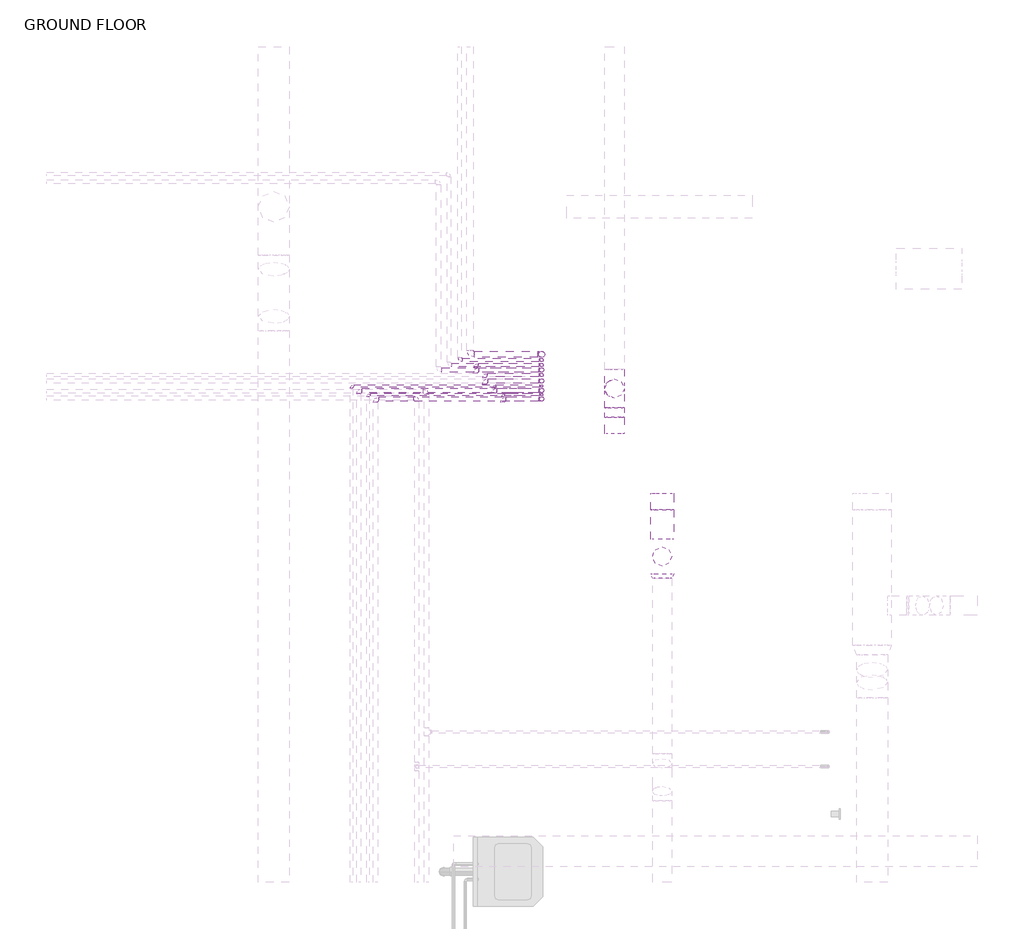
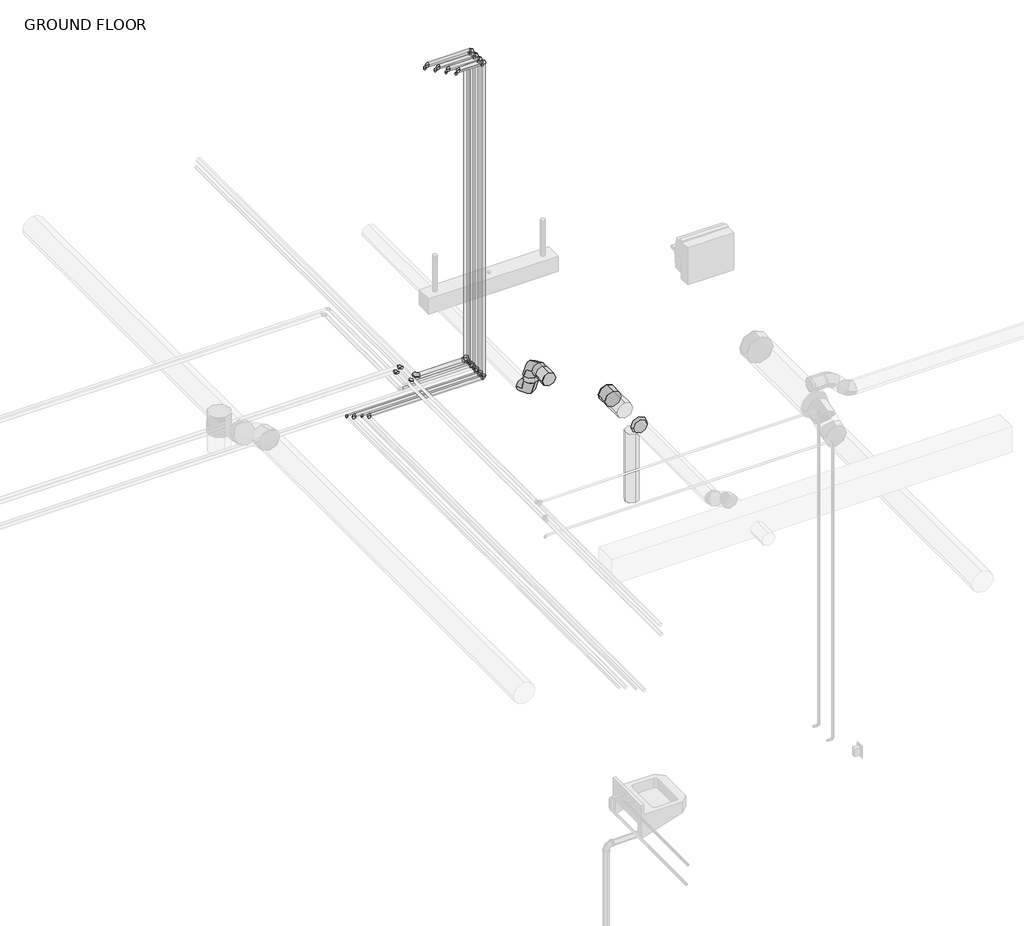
# One storey, part 14 of 22: 34 pipe fittings, 26 pipe segments, 5 duct fittings, 4 duct segments.
"""IFC4 building model written with IfcOpenShell, lengths in millimetres."""

from ifc_helpers import new_model, si_unit, point, frame, frame_2d, origin, place, context, project, spatial, circle_curve, trimmed, segment, composite_curve, outline, extrude, transform, mapped, element, save
from components import round_elbow_1_d_c80420c1, round_takeoff_standard_fb854549, round_takeoff_standard_0a2b6d05, round_transition_angle_45_degree_fe5c3047, elbow_generic_standard_c06ac706, elbow_generic_standard_738589b0, elbow_generic_standard_a088f956, elbow_generic_standard_371413ad

model = new_model("IFC4")

# Units and contexts
model_context = context("Model", 3, world=origin())
ifc_project = project(units=[si_unit("LENGTHUNIT", "METRE", prefix="MILLI")], contexts=[model_context])

# Site, building, storey
site = spatial("IfcSite", under=ifc_project)
building = spatial("IfcBuilding", under=site)
storey = spatial("IfcBuildingStorey", under=building, Name="GROUND FLOOR", Elevation=30480.0)

# Duct fittings
placement = place(None, origin())
round_elbow_1_d_shape = round_elbow_1_d_c80420c1(model_context)
element("IfcDuctFitting", 1, ObjectType="Round Elbow : 1 D", at=placement, inside=storey, context=model_context, shape_type="MappedRepresentation", body=[
    mapped(round_elbow_1_d_shape, transform((-8950.9579607, 7478.1195005, 33629.6), x_axis=(0.0, 0.0, 1.0), y_axis=(0.0, -1.0, 0.0), z_axis=(1.0, 0.0, 0.0))),
])
element("IfcDuctFitting", 2, ObjectType="Round Elbow : 1 D", at=placement, inside=storey, context=model_context, shape_type="MappedRepresentation", body=[
    mapped(round_elbow_1_d_shape, transform((-8950.9579607, 7478.1195005, 33324.8), x_axis=(0.0, 0.0, -1.0), y_axis=(0.0, 1.0, 0.0), z_axis=(1.0, 0.0, 0.0))),
])
round_takeoff_standard_shape = round_takeoff_standard_fb854549(model_context)
element("IfcDuctFitting", 3, ObjectType="Round Takeoff : Standard", at=placement, inside=storey, context=model_context, shape_type="MappedRepresentation", body=[
    mapped(round_takeoff_standard_shape, transform((-8950.9579607, 7187.8293332, 33629.6), x_axis=(0.0, 1.0, 0.0), y_axis=(1.0, 0.0, 0.0), z_axis=(0.0, 0.0, -1.0))),
])
round_takeoff_standard_2_shape = round_takeoff_standard_0a2b6d05(model_context)
element("IfcDuctFitting", 4, ObjectType="Round Takeoff : Standard", at=placement, inside=storey, context=model_context, shape_type="MappedRepresentation", body=[
    mapped(round_takeoff_standard_2_shape, transform((-8636.6329607, 6781.4293332, 33629.6), x_axis=(0.0, -1.0, 0.0), y_axis=(-1.0, 0.0, 0.0), z_axis=(0.0, 0.0, -1.0))),
])
round_transition_angle_45_degree_shape = round_transition_angle_45_degree_fe5c3047(model_context)
element("IfcDuctFitting", 5, ObjectType="Round Transition - Angle : 45 Degree", at=placement, inside=storey, context=model_context, shape_type="MappedRepresentation", body=[
    mapped(round_transition_angle_45_degree_shape, transform((-8636.6329607, 6258.9195005, 33629.6), x_axis=(0.0, -1.0, 0.0), y_axis=(1.0, 0.0, 0.0), z_axis=(0.0, 0.0, 1.0))),
])

# Duct segments
element("IfcDuctSegment", 6, ObjectType="Taps / Short Radius", at=placement, inside=storey, context=model_context, shape_type="SweptSolid", body=[
    extrude(outline(composite_curve([segment(trimmed(circle_curve(frame_2d((-8636.6329607, 6373.2195005)), 63.5), [point((-8636.6329607, 6309.7195005))], [point((-8700.1329607, 6373.2195005))], False, "CARTESIAN"), True, "CONTINUOUS"), segment(trimmed(circle_curve(frame_2d((-8636.6329607, 6373.2195005)), 63.5), [point((-8700.1329607, 6373.2195005))], [point((-8636.6329607, 6436.7195005))], False, "CARTESIAN"), True, "CONTINUOUS"), segment(trimmed(circle_curve(frame_2d((-8636.6329607, 6373.2195005)), 63.5), [point((-8636.6329607, 6436.7195005))], [point((-8573.1329607, 6373.2195005))], False, "CARTESIAN"), True, "CONTINUOUS"), segment(trimmed(circle_curve(frame_2d((-8636.6329607, 6373.2195005)), 63.5), [point((-8573.1329607, 6373.2195005))], [point((-8636.6329607, 6309.7195005))], False, "CARTESIAN"), True, "CONTINUOUS")], self_intersect=False)), frame((0.0, 0.0, 32816.8), z_axis=(0.0, 0.0, 1.0), x_axis=(1.0, 0.0, 0.0)), (0.0, 0.0, 1.0), 685.8),
])
element("IfcDuctSegment", 7, ObjectType="Taps / Short Radius", at=placement, inside=storey, context=model_context, shape_type="SweptSolid", body=[
    extrude(outline(composite_curve([segment(trimmed(circle_curve(frame_2d((33629.6, -8636.6329607)), 76.2), [point((33629.6, -8712.8329607))], [point((33553.4, -8636.6329607))], False, "CARTESIAN"), True, "CONTINUOUS"), segment(trimmed(circle_curve(frame_2d((33629.6, -8636.6329607)), 76.2), [point((33553.4, -8636.6329607))], [point((33629.6, -8560.4329607))], False, "CARTESIAN"), True, "CONTINUOUS"), segment(trimmed(circle_curve(frame_2d((33629.6, -8636.6329607)), 76.2), [point((33629.6, -8560.4329607))], [point((33705.8, -8636.6329607))], False, "CARTESIAN"), True, "CONTINUOUS"), segment(trimmed(circle_curve(frame_2d((33629.6, -8636.6329607)), 76.2), [point((33705.8, -8636.6329607))], [point((33629.6, -8712.8329607))], False, "CARTESIAN"), True, "CONTINUOUS")], self_intersect=False)), frame((0.0, 6487.5195005, 0.0), z_axis=(0.0, 1.0, 0.0), x_axis=(0.0, 0.0, 1.0)), (0.0, 0.0, 1.0), 192.3098327),
])
element("IfcDuctSegment", 8, ObjectType="Taps / Short Radius", at=placement, inside=storey, context=model_context, shape_type="SweptSolid", body=[
    extrude(outline(composite_curve([segment(trimmed(circle_curve(frame_2d((-8950.9579607, 7478.1195005)), 63.5), [point((-9014.4579607, 7478.1195005))], [point((-8950.9579607, 7541.6195005))], False, "CARTESIAN"), True, "CONTINUOUS"), segment(trimmed(circle_curve(frame_2d((-8950.9579607, 7478.1195005)), 63.5), [point((-8950.9579607, 7541.6195005))], [point((-8887.4579607, 7478.1195005))], False, "CARTESIAN"), True, "CONTINUOUS"), segment(trimmed(circle_curve(frame_2d((-8950.9579607, 7478.1195005)), 63.5), [point((-8887.4579607, 7478.1195005))], [point((-8950.9579607, 7414.6195005))], False, "CARTESIAN"), True, "CONTINUOUS"), segment(trimmed(circle_curve(frame_2d((-8950.9579607, 7478.1195005)), 63.5), [point((-8950.9579607, 7414.6195005))], [point((-9014.4579607, 7478.1195005))], False, "CARTESIAN"), True, "CONTINUOUS")], self_intersect=False)), frame((0.0, 0.0, 33451.8), z_axis=(0.0, 0.0, 1.0), x_axis=(1.0, 0.0, 0.0)), (0.0, 0.0, 1.0), 50.8),
])
element("IfcDuctSegment", 9, ObjectType="Taps / Short Radius", at=placement, inside=storey, context=model_context, shape_type="SweptSolid", body=[
    extrude(outline(composite_curve([segment(trimmed(circle_curve(frame_2d((33629.6, -8950.9579607)), 63.5), [point((33629.6, -8887.4579607))], [point((33693.1, -8950.9579607))], False, "CARTESIAN"), True, "CONTINUOUS"), segment(trimmed(circle_curve(frame_2d((33629.6, -8950.9579607)), 63.5), [point((33693.1, -8950.9579607))], [point((33629.6, -9014.4579607))], False, "CARTESIAN"), True, "CONTINUOUS"), segment(trimmed(circle_curve(frame_2d((33629.6, -8950.9579607)), 63.5), [point((33629.6, -9014.4579607))], [point((33566.1, -8950.9579607))], False, "CARTESIAN"), True, "CONTINUOUS"), segment(trimmed(circle_curve(frame_2d((33629.6, -8950.9579607)), 63.5), [point((33566.1, -8950.9579607))], [point((33629.6, -8887.4579607))], False, "CARTESIAN"), True, "CONTINUOUS")], self_intersect=False)), frame((0.0, 7289.4293332, 0.0), z_axis=(0.0, 1.0, 0.0), x_axis=(0.0, 0.0, 1.0)), (0.0, 0.0, 1.0), 61.6901673),
])

# Pipe fittings
elbow_generic_standard_shape = elbow_generic_standard_c06ac706(model_context)
element("IfcPipeFitting", 10, ObjectType="Elbow - Generic : Standard", at=placement, inside=storey, context=model_context, shape_type="MappedRepresentation", body=[
    mapped(elbow_generic_standard_shape, transform((-10635.1515455, 7465.7928353, 33680.4), x_axis=(-1.0, 0.0, 0.0), y_axis=(0.0, -1.0, 0.0), z_axis=(0.0, 0.0, 1.0))),
])
element("IfcPipeFitting", 11, ObjectType="Elbow - Generic : Standard", at=placement, inside=storey, context=model_context, shape_type="MappedRepresentation", body=[
    mapped(elbow_generic_standard_shape, transform((-10524.9642107, 7409.7014345, 33680.4), x_axis=(-1.0, 0.0, 0.0), y_axis=(0.0, -1.0, 0.0), z_axis=(0.0, 0.0, 1.0))),
])
element("IfcPipeFitting", 12, ObjectType="Elbow - Generic : Standard", at=placement, inside=storey, context=model_context, shape_type="MappedRepresentation", body=[
    mapped(elbow_generic_standard_shape, transform((-9429.5892107, 7409.7014345, 33680.4), x_axis=(1.0, 0.0, 0.0), y_axis=(0.0, 0.0, 1.0), z_axis=(0.0, -1.0, 0.0))),
])
element("IfcPipeFitting", 13, ObjectType="Elbow - Generic : Standard", at=placement, inside=storey, context=model_context, shape_type="MappedRepresentation", body=[
    mapped(elbow_generic_standard_shape, transform((-9429.5892107, 7465.7928353, 33680.4), x_axis=(1.0, 0.0, 0.0), y_axis=(0.0, 0.0, 1.0), z_axis=(0.0, -1.0, 0.0))),
])
element("IfcPipeFitting", 14, ObjectType="Elbow - Generic : Standard", at=placement, inside=storey, context=model_context, shape_type="MappedRepresentation", body=[
    mapped(elbow_generic_standard_shape, transform((-9429.5892107, 7600.6601211, 33680.4), x_axis=(1.0, 0.0, 0.0), y_axis=(0.0, 0.0, 1.0), z_axis=(0.0, -1.0, 0.0))),
])
element("IfcPipeFitting", 15, ObjectType="Elbow - Generic : Standard", at=placement, inside=storey, context=model_context, shape_type="MappedRepresentation", body=[
    mapped(elbow_generic_standard_shape, transform((-9429.5892107, 7528.3379884, 33680.4), x_axis=(1.0, 0.0, 0.0), y_axis=(0.0, 0.0, 1.0), z_axis=(0.0, -1.0, 0.0))),
])
element("IfcPipeFitting", 16, ObjectType="Elbow - Generic : Standard", at=placement, inside=storey, context=model_context, shape_type="MappedRepresentation", body=[
    mapped(elbow_generic_standard_shape, transform((-9429.5892107, 7600.6601211, 36830.0), x_axis=(0.0, 0.0, 1.0), y_axis=(-1.0, 0.0, 0.0), z_axis=(0.0, -1.0, 0.0))),
])
element("IfcPipeFitting", 17, ObjectType="Elbow - Generic : Standard", at=placement, inside=storey, context=model_context, shape_type="MappedRepresentation", body=[
    mapped(elbow_generic_standard_shape, transform((-9866.3353043, 7600.6601211, 36830.0), x_axis=(-1.0, 0.0, 0.0), y_axis=(0.0, -1.0, 0.0), z_axis=(0.0, 0.0, 1.0))),
])
element("IfcPipeFitting", 18, ObjectType="Elbow - Generic : Standard", at=placement, inside=storey, context=model_context, shape_type="MappedRepresentation", body=[
    mapped(elbow_generic_standard_shape, transform((-9429.5892107, 7528.3379884, 36830.0), x_axis=(0.0, 0.0, 1.0), y_axis=(-1.0, 0.0, 0.0), z_axis=(0.0, -1.0, 0.0))),
])
element("IfcPipeFitting", 19, ObjectType="Elbow - Generic : Standard", at=placement, inside=storey, context=model_context, shape_type="MappedRepresentation", body=[
    mapped(elbow_generic_standard_shape, transform((-9806.3353043, 7528.3379884, 36830.0), x_axis=(-1.0, 0.0, 0.0), y_axis=(0.0, -1.0, 0.0), z_axis=(0.0, 0.0, 1.0))),
])
element("IfcPipeFitting", 20, ObjectType="Elbow - Generic : Standard", at=placement, inside=storey, context=model_context, shape_type="MappedRepresentation", body=[
    mapped(elbow_generic_standard_shape, transform((-9429.5892107, 7465.7928353, 36830.0), x_axis=(0.0, 0.0, 1.0), y_axis=(-1.0, 0.0, 0.0), z_axis=(0.0, -1.0, 0.0))),
])
element("IfcPipeFitting", 21, ObjectType="Elbow - Generic : Standard", at=placement, inside=storey, context=model_context, shape_type="MappedRepresentation", body=[
    mapped(elbow_generic_standard_shape, transform((-9746.3353043, 7465.7928353, 36830.0), x_axis=(-1.0, 0.0, 0.0), y_axis=(0.0, -1.0, 0.0), z_axis=(0.0, 0.0, 1.0))),
])
element("IfcPipeFitting", 22, ObjectType="Elbow - Generic : Standard", at=placement, inside=storey, context=model_context, shape_type="MappedRepresentation", body=[
    mapped(elbow_generic_standard_shape, transform((-9429.5892107, 7409.7014345, 36830.0), x_axis=(0.0, 0.0, 1.0), y_axis=(-1.0, 0.0, 0.0), z_axis=(0.0, -1.0, 0.0))),
])
element("IfcPipeFitting", 23, ObjectType="Elbow - Generic : Standard", at=placement, inside=storey, context=model_context, shape_type="MappedRepresentation", body=[
    mapped(elbow_generic_standard_shape, transform((-9686.3353043, 7409.7014345, 36830.0), x_axis=(-1.0, 0.0, 0.0), y_axis=(0.0, -1.0, 0.0), z_axis=(0.0, 0.0, 1.0))),
])
element("IfcPipeFitting", 24, ObjectType="Elbow - Generic : Standard", at=placement, inside=storey, context=model_context, shape_type="MappedRepresentation", body=[
    mapped(elbow_generic_standard_shape, transform((-10189.2079607, 7460.2718518, 34023.3), x_axis=(0.0, 1.0, 0.0), y_axis=(-1.0, 0.0, 0.0), z_axis=(0.0, 0.0, 1.0))),
])
element("IfcPipeFitting", 25, ObjectType="Elbow - Generic : Standard", at=placement, inside=storey, context=model_context, shape_type="MappedRepresentation", body=[
    mapped(elbow_generic_standard_shape, transform((-10252.7079607, 7415.8218518, 34023.3), x_axis=(0.0, 1.0, 0.0), y_axis=(-1.0, 0.0, 0.0), z_axis=(0.0, 0.0, 1.0))),
])
elbow_generic_standard_2_shape = elbow_generic_standard_738589b0(model_context)
element("IfcPipeFitting", 26, ObjectType="Elbow - Generic : Standard", at=placement, inside=storey, context=model_context, shape_type="MappedRepresentation", body=[
    mapped(elbow_generic_standard_2_shape, transform((-9971.0694154, 7666.6322539, 33680.4), x_axis=(0.0, -1.0, 0.0), y_axis=(1.0, 0.0, 0.0), z_axis=(0.0, 0.0, 1.0))),
])
element("IfcPipeFitting", 27, ObjectType="Elbow - Generic : Standard", at=placement, inside=storey, context=model_context, shape_type="MappedRepresentation", body=[
    mapped(elbow_generic_standard_2_shape, transform((-9429.5892107, 7633.6461875, 33680.4), x_axis=(1.0, 0.0, 0.0), y_axis=(0.0, 0.0, 1.0), z_axis=(0.0, -1.0, 0.0))),
])
element("IfcPipeFitting", 28, ObjectType="Elbow - Generic : Standard", at=placement, inside=storey, context=model_context, shape_type="MappedRepresentation", body=[
    mapped(elbow_generic_standard_2_shape, transform((-9429.5892107, 7666.6322539, 33680.4), x_axis=(1.0, 0.0, 0.0), y_axis=(0.0, 0.0, 1.0), z_axis=(0.0, -1.0, 0.0))),
])
element("IfcPipeFitting", 29, ObjectType="Elbow - Generic : Standard", at=placement, inside=storey, context=model_context, shape_type="MappedRepresentation", body=[
    mapped(elbow_generic_standard_2_shape, transform((-9429.5892107, 7567.6740548, 33680.4), x_axis=(1.0, 0.0, 0.0), y_axis=(0.0, 0.0, 1.0), z_axis=(0.0, -1.0, 0.0))),
])
element("IfcPipeFitting", 30, ObjectType="Elbow - Generic : Standard", at=placement, inside=storey, context=model_context, shape_type="MappedRepresentation", body=[
    mapped(elbow_generic_standard_2_shape, transform((-9429.5892107, 7633.6461875, 36779.2), x_axis=(0.0, 0.0, 1.0), y_axis=(-1.0, 0.0, 0.0), z_axis=(0.0, -1.0, 0.0))),
])
element("IfcPipeFitting", 31, ObjectType="Elbow - Generic : Standard", at=placement, inside=storey, context=model_context, shape_type="MappedRepresentation", body=[
    mapped(elbow_generic_standard_2_shape, transform((-9866.3353043, 7633.6461875, 36779.2), x_axis=(-1.0, 0.0, 0.0), y_axis=(0.0, -1.0, 0.0), z_axis=(0.0, 0.0, 1.0))),
])
element("IfcPipeFitting", 32, ObjectType="Elbow - Generic : Standard", at=placement, inside=storey, context=model_context, shape_type="MappedRepresentation", body=[
    mapped(elbow_generic_standard_2_shape, transform((-9429.5892107, 7567.6740548, 36779.2), x_axis=(0.0, 0.0, 1.0), y_axis=(-1.0, 0.0, 0.0), z_axis=(0.0, -1.0, 0.0))),
])
element("IfcPipeFitting", 33, ObjectType="Elbow - Generic : Standard", at=placement, inside=storey, context=model_context, shape_type="MappedRepresentation", body=[
    mapped(elbow_generic_standard_2_shape, transform((-9806.3353043, 7567.6740548, 36779.2), x_axis=(-1.0, 0.0, 0.0), y_axis=(0.0, -1.0, 0.0), z_axis=(0.0, 0.0, 1.0))),
])
elbow_generic_standard_3_shape = elbow_generic_standard_a088f956(model_context)
element("IfcPipeFitting", 34, ObjectType="Elbow - Generic : Standard", at=placement, inside=storey, context=model_context, shape_type="MappedRepresentation", body=[
    mapped(elbow_generic_standard_3_shape, transform((-10682.7765455, 7495.3519221, 33680.4), x_axis=(-1.0, 0.0, 0.0), y_axis=(0.0, -1.0, 0.0), z_axis=(0.0, 0.0, 1.0))),
])
element("IfcPipeFitting", 35, ObjectType="Elbow - Generic : Standard", at=placement, inside=storey, context=model_context, shape_type="MappedRepresentation", body=[
    mapped(elbow_generic_standard_3_shape, transform((-10572.5892107, 7438.5314076, 33680.4), x_axis=(-1.0, 0.0, 0.0), y_axis=(0.0, -1.0, 0.0), z_axis=(0.0, 0.0, 1.0))),
])
element("IfcPipeFitting", 36, ObjectType="Elbow - Generic : Standard", at=placement, inside=storey, context=model_context, shape_type="MappedRepresentation", body=[
    mapped(elbow_generic_standard_3_shape, transform((-9429.5892107, 7438.5314076, 33680.4), x_axis=(1.0, 0.0, 0.0), y_axis=(0.0, 0.0, 1.0), z_axis=(0.0, -1.0, 0.0))),
])
element("IfcPipeFitting", 37, ObjectType="Elbow - Generic : Standard", at=placement, inside=storey, context=model_context, shape_type="MappedRepresentation", body=[
    mapped(elbow_generic_standard_3_shape, transform((-9429.5892107, 7495.3519221, 33680.4), x_axis=(1.0, 0.0, 0.0), y_axis=(0.0, 0.0, 1.0), z_axis=(0.0, -1.0, 0.0))),
])
element("IfcPipeFitting", 38, ObjectType="Elbow - Generic : Standard", at=placement, inside=storey, context=model_context, shape_type="MappedRepresentation", body=[
    mapped(elbow_generic_standard_3_shape, transform((-9429.5892107, 7495.3519221, 36779.2), x_axis=(0.0, 0.0, 1.0), y_axis=(-1.0, 0.0, 0.0), z_axis=(0.0, -1.0, 0.0))),
])
element("IfcPipeFitting", 39, ObjectType="Elbow - Generic : Standard", at=placement, inside=storey, context=model_context, shape_type="MappedRepresentation", body=[
    mapped(elbow_generic_standard_3_shape, transform((-9746.3353043, 7495.3519221, 36779.2), x_axis=(-1.0, 0.0, 0.0), y_axis=(0.0, -1.0, 0.0), z_axis=(0.0, 0.0, 1.0))),
])
element("IfcPipeFitting", 40, ObjectType="Elbow - Generic : Standard", at=placement, inside=storey, context=model_context, shape_type="MappedRepresentation", body=[
    mapped(elbow_generic_standard_3_shape, transform((-9429.5892107, 7438.5314076, 36779.2), x_axis=(0.0, 0.0, 1.0), y_axis=(-1.0, 0.0, 0.0), z_axis=(0.0, -1.0, 0.0))),
])
element("IfcPipeFitting", 41, ObjectType="Elbow - Generic : Standard", at=placement, inside=storey, context=model_context, shape_type="MappedRepresentation", body=[
    mapped(elbow_generic_standard_3_shape, transform((-9686.3353043, 7438.5314076, 36779.2), x_axis=(-1.0, 0.0, 0.0), y_axis=(0.0, -1.0, 0.0), z_axis=(0.0, 0.0, 1.0))),
])
elbow_generic_standard_4_shape = elbow_generic_standard_371413ad(model_context)
element("IfcPipeFitting", 42, ObjectType="Elbow - Generic : Standard", at=placement, inside=storey, context=model_context, shape_type="MappedRepresentation", body=[
    mapped(elbow_generic_standard_4_shape, transform((-9902.105773, 7703.4915784, 33680.4), x_axis=(0.0, -1.0, 0.0), y_axis=(1.0, 0.0, 0.0), z_axis=(0.0, 0.0, 1.0))),
])
element("IfcPipeFitting", 43, ObjectType="Elbow - Generic : Standard", at=placement, inside=storey, context=model_context, shape_type="MappedRepresentation", body=[
    mapped(elbow_generic_standard_4_shape, transform((-9429.5892107, 7703.4915784, 33680.4), x_axis=(1.0, 0.0, 0.0), y_axis=(0.0, 0.0, 1.0), z_axis=(0.0, -1.0, 0.0))),
])

# Pipe segments
element("IfcPipeSegment", 44, ObjectType="Copper Tubing", at=placement, inside=storey, context=model_context, shape_type="SweptSolid", body=[
    extrude(outline(composite_curve([segment(trimmed(circle_curve(frame_2d((7703.4915784, 33680.4)), 20.6375), [point((7682.8540784, 33680.4))], [point((7703.4915784, 33701.0375))], False, "CARTESIAN"), True, "CONTINUOUS"), segment(trimmed(circle_curve(frame_2d((7703.4915784, 33680.4)), 20.6375), [point((7703.4915784, 33701.0375))], [point((7724.1290784, 33680.4))], False, "CARTESIAN"), True, "CONTINUOUS"), segment(trimmed(circle_curve(frame_2d((7703.4915784, 33680.4)), 20.6375), [point((7724.1290784, 33680.4))], [point((7703.4915784, 33659.7625))], False, "CARTESIAN"), True, "CONTINUOUS"), segment(trimmed(circle_curve(frame_2d((7703.4915784, 33680.4)), 20.6375), [point((7703.4915784, 33659.7625))], [point((7682.8540784, 33680.4))], False, "CARTESIAN"), True, "CONTINUOUS")], self_intersect=False)), frame((-9875.118273, 0.0, 0.0), z_axis=(1.0, 0.0, 0.0), x_axis=(0.0, 1.0, 0.0)), (0.0, 0.0, 1.0), 418.5415623),
])
element("IfcPipeSegment", 45, ObjectType="Copper Tubing", at=placement, inside=storey, context=model_context, shape_type="SweptSolid", body=[
    extrude(outline(composite_curve([segment(trimmed(circle_curve(frame_2d((7666.6322539, 33680.4)), 11.1125), [point((7655.5197539, 33680.4))], [point((7666.6322539, 33691.5125))], False, "CARTESIAN"), True, "CONTINUOUS"), segment(trimmed(circle_curve(frame_2d((7666.6322539, 33680.4)), 11.1125), [point((7666.6322539, 33691.5125))], [point((7677.7447539, 33680.4))], False, "CARTESIAN"), True, "CONTINUOUS"), segment(trimmed(circle_curve(frame_2d((7666.6322539, 33680.4)), 11.1125), [point((7677.7447539, 33680.4))], [point((7666.6322539, 33669.2875))], False, "CARTESIAN"), True, "CONTINUOUS"), segment(trimmed(circle_curve(frame_2d((7666.6322539, 33680.4)), 11.1125), [point((7666.6322539, 33669.2875))], [point((7655.5197539, 33680.4))], False, "CARTESIAN"), True, "CONTINUOUS")], self_intersect=False)), frame((-9953.6069154, 0.0, 0.0), z_axis=(1.0, 0.0, 0.0), x_axis=(0.0, 1.0, 0.0)), (0.0, 0.0, 1.0), 506.5552047),
])
element("IfcPipeSegment", 46, ObjectType="Copper Tubing", at=placement, inside=storey, context=model_context, shape_type="SweptSolid", body=[
    extrude(outline(composite_curve([segment(trimmed(circle_curve(frame_2d((7600.6601211, 33680.4)), 14.2875), [point((7586.3726211, 33680.4))], [point((7600.6601211, 33694.6875))], False, "CARTESIAN"), True, "CONTINUOUS"), segment(trimmed(circle_curve(frame_2d((7600.6601211, 33680.4)), 14.2875), [point((7600.6601211, 33694.6875))], [point((7614.9476211, 33680.4))], False, "CARTESIAN"), True, "CONTINUOUS"), segment(trimmed(circle_curve(frame_2d((7600.6601211, 33680.4)), 14.2875), [point((7614.9476211, 33680.4))], [point((7600.6601211, 33666.1125))], False, "CARTESIAN"), True, "CONTINUOUS"), segment(trimmed(circle_curve(frame_2d((7600.6601211, 33680.4)), 14.2875), [point((7600.6601211, 33666.1125))], [point((7586.3726211, 33680.4))], False, "CARTESIAN"), True, "CONTINUOUS")], self_intersect=False)), frame((-10088.3592002, 0.0, 0.0), z_axis=(1.0, 0.0, 0.0), x_axis=(0.0, 1.0, 0.0)), (0.0, 0.0, 1.0), 638.1324895),
])
element("IfcPipeSegment", 47, ObjectType="Copper Tubing", at=placement, inside=storey, context=model_context, shape_type="SweptSolid", body=[
    extrude(outline(composite_curve([segment(trimmed(circle_curve(frame_2d((7633.6461875, 33680.4)), 11.1125), [point((7622.5336875, 33680.4))], [point((7633.6461875, 33691.5125))], False, "CARTESIAN"), True, "CONTINUOUS"), segment(trimmed(circle_curve(frame_2d((7633.6461875, 33680.4)), 11.1125), [point((7633.6461875, 33691.5125))], [point((7644.7586875, 33680.4))], False, "CARTESIAN"), True, "CONTINUOUS"), segment(trimmed(circle_curve(frame_2d((7633.6461875, 33680.4)), 11.1125), [point((7644.7586875, 33680.4))], [point((7633.6461875, 33669.2875))], False, "CARTESIAN"), True, "CONTINUOUS"), segment(trimmed(circle_curve(frame_2d((7633.6461875, 33680.4)), 11.1125), [point((7633.6461875, 33669.2875))], [point((7622.5336875, 33680.4))], False, "CARTESIAN"), True, "CONTINUOUS")], self_intersect=False)), frame((-10022.5705578, 0.0, 0.0), z_axis=(1.0, 0.0, 0.0), x_axis=(0.0, 1.0, 0.0)), (0.0, 0.0, 1.0), 575.5188471),
])
element("IfcPipeSegment", 48, ObjectType="Copper Tubing", at=placement, inside=storey, context=model_context, shape_type="SweptSolid", body=[
    extrude(outline(composite_curve([segment(trimmed(circle_curve(frame_2d((7495.3519221, 33680.4)), 7.9375), [point((7487.4144221, 33680.4))], [point((7495.3519221, 33688.3375))], False, "CARTESIAN"), True, "CONTINUOUS"), segment(trimmed(circle_curve(frame_2d((7495.3519221, 33680.4)), 7.9375), [point((7495.3519221, 33688.3375))], [point((7503.2894221, 33680.4))], False, "CARTESIAN"), True, "CONTINUOUS"), segment(trimmed(circle_curve(frame_2d((7495.3519221, 33680.4)), 7.9375), [point((7503.2894221, 33680.4))], [point((7495.3519221, 33672.4625))], False, "CARTESIAN"), True, "CONTINUOUS"), segment(trimmed(circle_curve(frame_2d((7495.3519221, 33680.4)), 7.9375), [point((7495.3519221, 33672.4625))], [point((7487.4144221, 33680.4))], False, "CARTESIAN"), True, "CONTINUOUS")], self_intersect=False)), frame((-10668.4890455, 0.0, 0.0), z_axis=(1.0, 0.0, 0.0), x_axis=(0.0, 1.0, 0.0)), (0.0, 0.0, 1.0), 1224.6123348),
])
element("IfcPipeSegment", 49, ObjectType="Copper Tubing", at=placement, inside=storey, context=model_context, shape_type="SweptSolid", body=[
    extrude(outline(composite_curve([segment(trimmed(circle_curve(frame_2d((7465.7928353, 33680.4)), 14.2875), [point((7451.5053353, 33680.4))], [point((7465.7928353, 33694.6875))], False, "CARTESIAN"), True, "CONTINUOUS"), segment(trimmed(circle_curve(frame_2d((7465.7928353, 33680.4)), 14.2875), [point((7465.7928353, 33694.6875))], [point((7480.0803353, 33680.4))], False, "CARTESIAN"), True, "CONTINUOUS"), segment(trimmed(circle_curve(frame_2d((7465.7928353, 33680.4)), 14.2875), [point((7480.0803353, 33680.4))], [point((7465.7928353, 33666.1125))], False, "CARTESIAN"), True, "CONTINUOUS"), segment(trimmed(circle_curve(frame_2d((7465.7928353, 33680.4)), 14.2875), [point((7465.7928353, 33666.1125))], [point((7451.5053353, 33680.4))], False, "CARTESIAN"), True, "CONTINUOUS")], self_intersect=False)), frame((-10614.5140455, 0.0, 0.0), z_axis=(1.0, 0.0, 0.0), x_axis=(0.0, 1.0, 0.0)), (0.0, 0.0, 1.0), 1164.2873348),
])
element("IfcPipeSegment", 50, ObjectType="Copper Tubing", at=placement, inside=storey, context=model_context, shape_type="SweptSolid", body=[
    extrude(outline(composite_curve([segment(trimmed(circle_curve(frame_2d((7438.5314076, 33680.4)), 7.9375), [point((7430.5939076, 33680.4))], [point((7438.5314076, 33688.3375))], False, "CARTESIAN"), True, "CONTINUOUS"), segment(trimmed(circle_curve(frame_2d((7438.5314076, 33680.4)), 7.9375), [point((7438.5314076, 33688.3375))], [point((7446.4689076, 33680.4))], False, "CARTESIAN"), True, "CONTINUOUS"), segment(trimmed(circle_curve(frame_2d((7438.5314076, 33680.4)), 7.9375), [point((7446.4689076, 33680.4))], [point((7438.5314076, 33672.4625))], False, "CARTESIAN"), True, "CONTINUOUS"), segment(trimmed(circle_curve(frame_2d((7438.5314076, 33680.4)), 7.9375), [point((7438.5314076, 33672.4625))], [point((7430.5939076, 33680.4))], False, "CARTESIAN"), True, "CONTINUOUS")], self_intersect=False)), frame((-10558.3017107, 0.0, 0.0), z_axis=(1.0, 0.0, 0.0), x_axis=(0.0, 1.0, 0.0)), (0.0, 0.0, 1.0), 1114.425),
])
element("IfcPipeSegment", 51, ObjectType="Copper Tubing", at=placement, inside=storey, context=model_context, shape_type="SweptSolid", body=[
    extrude(outline(composite_curve([segment(trimmed(circle_curve(frame_2d((7409.7014345, 33680.4)), 14.2875), [point((7395.4139345, 33680.4))], [point((7409.7014345, 33694.6875))], False, "CARTESIAN"), True, "CONTINUOUS"), segment(trimmed(circle_curve(frame_2d((7409.7014345, 33680.4)), 14.2875), [point((7409.7014345, 33694.6875))], [point((7423.9889345, 33680.4))], False, "CARTESIAN"), True, "CONTINUOUS"), segment(trimmed(circle_curve(frame_2d((7409.7014345, 33680.4)), 14.2875), [point((7423.9889345, 33680.4))], [point((7409.7014345, 33666.1125))], False, "CARTESIAN"), True, "CONTINUOUS"), segment(trimmed(circle_curve(frame_2d((7409.7014345, 33680.4)), 14.2875), [point((7409.7014345, 33666.1125))], [point((7395.4139345, 33680.4))], False, "CARTESIAN"), True, "CONTINUOUS")], self_intersect=False)), frame((-10504.3267107, 0.0, 0.0), z_axis=(1.0, 0.0, 0.0), x_axis=(0.0, 1.0, 0.0)), (0.0, 0.0, 1.0), 1054.1),
])
element("IfcPipeSegment", 52, ObjectType="Copper Tubing", at=placement, inside=storey, context=model_context, shape_type="SweptSolid", body=[
    extrude(outline(composite_curve([segment(trimmed(circle_curve(frame_2d((-9429.5892107, 7703.4915784)), 20.6375), [point((-9450.2267107, 7703.4915784))], [point((-9429.5892107, 7724.1290784))], False, "CARTESIAN"), True, "CONTINUOUS"), segment(trimmed(circle_curve(frame_2d((-9429.5892107, 7703.4915784)), 20.6375), [point((-9429.5892107, 7724.1290784))], [point((-9408.9517107, 7703.4915784))], False, "CARTESIAN"), True, "CONTINUOUS"), segment(trimmed(circle_curve(frame_2d((-9429.5892107, 7703.4915784)), 20.6375), [point((-9408.9517107, 7703.4915784))], [point((-9429.5892107, 7682.8540784))], False, "CARTESIAN"), True, "CONTINUOUS"), segment(trimmed(circle_curve(frame_2d((-9429.5892107, 7703.4915784)), 20.6375), [point((-9429.5892107, 7682.8540784))], [point((-9450.2267107, 7703.4915784))], False, "CARTESIAN"), True, "CONTINUOUS")], self_intersect=False)), frame((0.0, 0.0, 33707.3875), z_axis=(0.0, 0.0, 1.0), x_axis=(1.0, 0.0, 0.0)), (0.0, 0.0, 1.0), 3021.0125),
])
element("IfcPipeSegment", 53, ObjectType="Copper Tubing", at=placement, inside=storey, context=model_context, shape_type="SweptSolid", body=[
    extrude(outline(composite_curve([segment(trimmed(circle_curve(frame_2d((-9429.5892107, 7666.6322539)), 11.1125), [point((-9440.7017107, 7666.6322539))], [point((-9429.5892107, 7677.7447539))], False, "CARTESIAN"), True, "CONTINUOUS"), segment(trimmed(circle_curve(frame_2d((-9429.5892107, 7666.6322539)), 11.1125), [point((-9429.5892107, 7677.7447539))], [point((-9418.4767107, 7666.6322539))], False, "CARTESIAN"), True, "CONTINUOUS"), segment(trimmed(circle_curve(frame_2d((-9429.5892107, 7666.6322539)), 11.1125), [point((-9418.4767107, 7666.6322539))], [point((-9429.5892107, 7655.5197539))], False, "CARTESIAN"), True, "CONTINUOUS"), segment(trimmed(circle_curve(frame_2d((-9429.5892107, 7666.6322539)), 11.1125), [point((-9429.5892107, 7655.5197539))], [point((-9440.7017107, 7666.6322539))], False, "CARTESIAN"), True, "CONTINUOUS")], self_intersect=False)), frame((0.0, 0.0, 33697.8625), z_axis=(0.0, 0.0, 1.0), x_axis=(1.0, 0.0, 0.0)), (0.0, 0.0, 1.0), 3030.5375),
])
element("IfcPipeSegment", 54, ObjectType="Copper Tubing", at=placement, inside=storey, context=model_context, shape_type="SweptSolid", body=[
    extrude(outline(composite_curve([segment(trimmed(circle_curve(frame_2d((-9429.5892107, 7600.6601211)), 14.2875), [point((-9443.8767107, 7600.6601211))], [point((-9429.5892107, 7614.9476211))], False, "CARTESIAN"), True, "CONTINUOUS"), segment(trimmed(circle_curve(frame_2d((-9429.5892107, 7600.6601211)), 14.2875), [point((-9429.5892107, 7614.9476211))], [point((-9415.3017107, 7600.6601211))], False, "CARTESIAN"), True, "CONTINUOUS"), segment(trimmed(circle_curve(frame_2d((-9429.5892107, 7600.6601211)), 14.2875), [point((-9415.3017107, 7600.6601211))], [point((-9429.5892107, 7586.3726211))], False, "CARTESIAN"), True, "CONTINUOUS"), segment(trimmed(circle_curve(frame_2d((-9429.5892107, 7600.6601211)), 14.2875), [point((-9429.5892107, 7586.3726211))], [point((-9443.8767107, 7600.6601211))], False, "CARTESIAN"), True, "CONTINUOUS")], self_intersect=False)), frame((0.0, 0.0, 33701.0375), z_axis=(0.0, 0.0, 1.0), x_axis=(1.0, 0.0, 0.0)), (0.0, 0.0, 1.0), 3108.325),
])
element("IfcPipeSegment", 55, ObjectType="Copper Tubing", at=placement, inside=storey, context=model_context, shape_type="SweptSolid", body=[
    extrude(outline(composite_curve([segment(trimmed(circle_curve(frame_2d((7600.6601211, 36830.0)), 14.2875), [point((7614.9476211, 36830.0))], [point((7600.6601211, 36815.7125))], False, "CARTESIAN"), True, "CONTINUOUS"), segment(trimmed(circle_curve(frame_2d((7600.6601211, 36830.0)), 14.2875), [point((7600.6601211, 36815.7125))], [point((7586.3726211, 36830.0))], False, "CARTESIAN"), True, "CONTINUOUS"), segment(trimmed(circle_curve(frame_2d((7600.6601211, 36830.0)), 14.2875), [point((7586.3726211, 36830.0))], [point((7600.6601211, 36844.2875))], False, "CARTESIAN"), True, "CONTINUOUS"), segment(trimmed(circle_curve(frame_2d((7600.6601211, 36830.0)), 14.2875), [point((7600.6601211, 36844.2875))], [point((7614.9476211, 36830.0))], False, "CARTESIAN"), True, "CONTINUOUS")], self_intersect=False)), frame((-9845.6978043, 0.0, 0.0), z_axis=(1.0, 0.0, 0.0), x_axis=(0.0, 1.0, 0.0)), (0.0, 0.0, 1.0), 395.4710936),
])
element("IfcPipeSegment", 56, ObjectType="Copper Tubing", at=placement, inside=storey, context=model_context, shape_type="SweptSolid", body=[
    extrude(outline(composite_curve([segment(trimmed(circle_curve(frame_2d((-9429.5892107, 7528.3379884)), 14.2875), [point((-9443.8767107, 7528.3379884))], [point((-9429.5892107, 7542.6254884))], False, "CARTESIAN"), True, "CONTINUOUS"), segment(trimmed(circle_curve(frame_2d((-9429.5892107, 7528.3379884)), 14.2875), [point((-9429.5892107, 7542.6254884))], [point((-9415.3017107, 7528.3379884))], False, "CARTESIAN"), True, "CONTINUOUS"), segment(trimmed(circle_curve(frame_2d((-9429.5892107, 7528.3379884)), 14.2875), [point((-9415.3017107, 7528.3379884))], [point((-9429.5892107, 7514.0504884))], False, "CARTESIAN"), True, "CONTINUOUS"), segment(trimmed(circle_curve(frame_2d((-9429.5892107, 7528.3379884)), 14.2875), [point((-9429.5892107, 7514.0504884))], [point((-9443.8767107, 7528.3379884))], False, "CARTESIAN"), True, "CONTINUOUS")], self_intersect=False)), frame((0.0, 0.0, 33701.0375), z_axis=(0.0, 0.0, 1.0), x_axis=(1.0, 0.0, 0.0)), (0.0, 0.0, 1.0), 3108.325),
])
element("IfcPipeSegment", 57, ObjectType="Copper Tubing", at=placement, inside=storey, context=model_context, shape_type="SweptSolid", body=[
    extrude(outline(composite_curve([segment(trimmed(circle_curve(frame_2d((7528.3379884, 36830.0)), 14.2875), [point((7542.6254884, 36830.0))], [point((7528.3379884, 36815.7125))], False, "CARTESIAN"), True, "CONTINUOUS"), segment(trimmed(circle_curve(frame_2d((7528.3379884, 36830.0)), 14.2875), [point((7528.3379884, 36815.7125))], [point((7514.0504884, 36830.0))], False, "CARTESIAN"), True, "CONTINUOUS"), segment(trimmed(circle_curve(frame_2d((7528.3379884, 36830.0)), 14.2875), [point((7514.0504884, 36830.0))], [point((7528.3379884, 36844.2875))], False, "CARTESIAN"), True, "CONTINUOUS"), segment(trimmed(circle_curve(frame_2d((7528.3379884, 36830.0)), 14.2875), [point((7528.3379884, 36844.2875))], [point((7542.6254884, 36830.0))], False, "CARTESIAN"), True, "CONTINUOUS")], self_intersect=False)), frame((-9785.6978043, 0.0, 0.0), z_axis=(1.0, 0.0, 0.0), x_axis=(0.0, 1.0, 0.0)), (0.0, 0.0, 1.0), 335.4710936),
])
element("IfcPipeSegment", 58, ObjectType="Copper Tubing", at=placement, inside=storey, context=model_context, shape_type="SweptSolid", body=[
    extrude(outline(composite_curve([segment(trimmed(circle_curve(frame_2d((-9429.5892107, 7465.7928353)), 14.2875), [point((-9443.8767107, 7465.7928353))], [point((-9429.5892107, 7480.0803353))], False, "CARTESIAN"), True, "CONTINUOUS"), segment(trimmed(circle_curve(frame_2d((-9429.5892107, 7465.7928353)), 14.2875), [point((-9429.5892107, 7480.0803353))], [point((-9415.3017107, 7465.7928353))], False, "CARTESIAN"), True, "CONTINUOUS"), segment(trimmed(circle_curve(frame_2d((-9429.5892107, 7465.7928353)), 14.2875), [point((-9415.3017107, 7465.7928353))], [point((-9429.5892107, 7451.5053353))], False, "CARTESIAN"), True, "CONTINUOUS"), segment(trimmed(circle_curve(frame_2d((-9429.5892107, 7465.7928353)), 14.2875), [point((-9429.5892107, 7451.5053353))], [point((-9443.8767107, 7465.7928353))], False, "CARTESIAN"), True, "CONTINUOUS")], self_intersect=False)), frame((0.0, 0.0, 33701.0375), z_axis=(0.0, 0.0, 1.0), x_axis=(1.0, 0.0, 0.0)), (0.0, 0.0, 1.0), 3108.325),
])
element("IfcPipeSegment", 59, ObjectType="Copper Tubing", at=placement, inside=storey, context=model_context, shape_type="SweptSolid", body=[
    extrude(outline(composite_curve([segment(trimmed(circle_curve(frame_2d((7465.7928353, 36830.0)), 14.2875), [point((7480.0803353, 36830.0))], [point((7465.7928353, 36815.7125))], False, "CARTESIAN"), True, "CONTINUOUS"), segment(trimmed(circle_curve(frame_2d((7465.7928353, 36830.0)), 14.2875), [point((7465.7928353, 36815.7125))], [point((7451.5053353, 36830.0))], False, "CARTESIAN"), True, "CONTINUOUS"), segment(trimmed(circle_curve(frame_2d((7465.7928353, 36830.0)), 14.2875), [point((7451.5053353, 36830.0))], [point((7465.7928353, 36844.2875))], False, "CARTESIAN"), True, "CONTINUOUS"), segment(trimmed(circle_curve(frame_2d((7465.7928353, 36830.0)), 14.2875), [point((7465.7928353, 36844.2875))], [point((7480.0803353, 36830.0))], False, "CARTESIAN"), True, "CONTINUOUS")], self_intersect=False)), frame((-9725.6978043, 0.0, 0.0), z_axis=(1.0, 0.0, 0.0), x_axis=(0.0, 1.0, 0.0)), (0.0, 0.0, 1.0), 275.4710936),
])
element("IfcPipeSegment", 60, ObjectType="Copper Tubing", at=placement, inside=storey, context=model_context, shape_type="SweptSolid", body=[
    extrude(outline(composite_curve([segment(trimmed(circle_curve(frame_2d((-9429.5892107, 7409.7014345)), 14.2875), [point((-9443.8767107, 7409.7014345))], [point((-9429.5892107, 7423.9889345))], False, "CARTESIAN"), True, "CONTINUOUS"), segment(trimmed(circle_curve(frame_2d((-9429.5892107, 7409.7014345)), 14.2875), [point((-9429.5892107, 7423.9889345))], [point((-9415.3017107, 7409.7014345))], False, "CARTESIAN"), True, "CONTINUOUS"), segment(trimmed(circle_curve(frame_2d((-9429.5892107, 7409.7014345)), 14.2875), [point((-9415.3017107, 7409.7014345))], [point((-9429.5892107, 7395.4139345))], False, "CARTESIAN"), True, "CONTINUOUS"), segment(trimmed(circle_curve(frame_2d((-9429.5892107, 7409.7014345)), 14.2875), [point((-9429.5892107, 7395.4139345))], [point((-9443.8767107, 7409.7014345))], False, "CARTESIAN"), True, "CONTINUOUS")], self_intersect=False)), frame((0.0, 0.0, 33701.0375), z_axis=(0.0, 0.0, 1.0), x_axis=(1.0, 0.0, 0.0)), (0.0, 0.0, 1.0), 3108.325),
])
element("IfcPipeSegment", 61, ObjectType="Copper Tubing", at=placement, inside=storey, context=model_context, shape_type="SweptSolid", body=[
    extrude(outline(composite_curve([segment(trimmed(circle_curve(frame_2d((7409.7014345, 36830.0)), 14.2875), [point((7423.9889345, 36830.0))], [point((7409.7014345, 36815.7125))], False, "CARTESIAN"), True, "CONTINUOUS"), segment(trimmed(circle_curve(frame_2d((7409.7014345, 36830.0)), 14.2875), [point((7409.7014345, 36815.7125))], [point((7395.4139345, 36830.0))], False, "CARTESIAN"), True, "CONTINUOUS"), segment(trimmed(circle_curve(frame_2d((7409.7014345, 36830.0)), 14.2875), [point((7395.4139345, 36830.0))], [point((7409.7014345, 36844.2875))], False, "CARTESIAN"), True, "CONTINUOUS"), segment(trimmed(circle_curve(frame_2d((7409.7014345, 36830.0)), 14.2875), [point((7409.7014345, 36844.2875))], [point((7423.9889345, 36830.0))], False, "CARTESIAN"), True, "CONTINUOUS")], self_intersect=False)), frame((-9665.6978043, 0.0, 0.0), z_axis=(1.0, 0.0, 0.0), x_axis=(0.0, 1.0, 0.0)), (0.0, 0.0, 1.0), 215.4710936),
])
element("IfcPipeSegment", 62, ObjectType="Copper Tubing", at=placement, inside=storey, context=model_context, shape_type="SweptSolid", body=[
    extrude(outline(composite_curve([segment(trimmed(circle_curve(frame_2d((-9429.5892107, 7633.6461875)), 11.1125), [point((-9440.7017107, 7633.6461875))], [point((-9429.5892107, 7644.7586875))], False, "CARTESIAN"), True, "CONTINUOUS"), segment(trimmed(circle_curve(frame_2d((-9429.5892107, 7633.6461875)), 11.1125), [point((-9429.5892107, 7644.7586875))], [point((-9418.4767107, 7633.6461875))], False, "CARTESIAN"), True, "CONTINUOUS"), segment(trimmed(circle_curve(frame_2d((-9429.5892107, 7633.6461875)), 11.1125), [point((-9418.4767107, 7633.6461875))], [point((-9429.5892107, 7622.5336875))], False, "CARTESIAN"), True, "CONTINUOUS"), segment(trimmed(circle_curve(frame_2d((-9429.5892107, 7633.6461875)), 11.1125), [point((-9429.5892107, 7622.5336875))], [point((-9440.7017107, 7633.6461875))], False, "CARTESIAN"), True, "CONTINUOUS")], self_intersect=False)), frame((0.0, 0.0, 33697.8625), z_axis=(0.0, 0.0, 1.0), x_axis=(1.0, 0.0, 0.0)), (0.0, 0.0, 1.0), 3063.875),
])
element("IfcPipeSegment", 63, ObjectType="Copper Tubing", at=placement, inside=storey, context=model_context, shape_type="SweptSolid", body=[
    extrude(outline(composite_curve([segment(trimmed(circle_curve(frame_2d((7633.6461875, 36779.2)), 11.1125), [point((7644.7586875, 36779.2))], [point((7633.6461875, 36768.0875))], False, "CARTESIAN"), True, "CONTINUOUS"), segment(trimmed(circle_curve(frame_2d((7633.6461875, 36779.2)), 11.1125), [point((7633.6461875, 36768.0875))], [point((7622.5336875, 36779.2))], False, "CARTESIAN"), True, "CONTINUOUS"), segment(trimmed(circle_curve(frame_2d((7633.6461875, 36779.2)), 11.1125), [point((7622.5336875, 36779.2))], [point((7633.6461875, 36790.3125))], False, "CARTESIAN"), True, "CONTINUOUS"), segment(trimmed(circle_curve(frame_2d((7633.6461875, 36779.2)), 11.1125), [point((7633.6461875, 36790.3125))], [point((7644.7586875, 36779.2))], False, "CARTESIAN"), True, "CONTINUOUS")], self_intersect=False)), frame((-9848.8728043, 0.0, 0.0), z_axis=(1.0, 0.0, 0.0), x_axis=(0.0, 1.0, 0.0)), (0.0, 0.0, 1.0), 401.8210936),
])
element("IfcPipeSegment", 64, ObjectType="Copper Tubing", at=placement, inside=storey, context=model_context, shape_type="SweptSolid", body=[
    extrude(outline(composite_curve([segment(trimmed(circle_curve(frame_2d((-9429.5892107, 7567.6740548)), 11.1125), [point((-9440.7017107, 7567.6740548))], [point((-9429.5892107, 7578.7865548))], False, "CARTESIAN"), True, "CONTINUOUS"), segment(trimmed(circle_curve(frame_2d((-9429.5892107, 7567.6740548)), 11.1125), [point((-9429.5892107, 7578.7865548))], [point((-9418.4767107, 7567.6740548))], False, "CARTESIAN"), True, "CONTINUOUS"), segment(trimmed(circle_curve(frame_2d((-9429.5892107, 7567.6740548)), 11.1125), [point((-9418.4767107, 7567.6740548))], [point((-9429.5892107, 7556.5615548))], False, "CARTESIAN"), True, "CONTINUOUS"), segment(trimmed(circle_curve(frame_2d((-9429.5892107, 7567.6740548)), 11.1125), [point((-9429.5892107, 7556.5615548))], [point((-9440.7017107, 7567.6740548))], False, "CARTESIAN"), True, "CONTINUOUS")], self_intersect=False)), frame((0.0, 0.0, 33697.8625), z_axis=(0.0, 0.0, 1.0), x_axis=(1.0, 0.0, 0.0)), (0.0, 0.0, 1.0), 3063.875),
])
element("IfcPipeSegment", 65, ObjectType="Copper Tubing", at=placement, inside=storey, context=model_context, shape_type="SweptSolid", body=[
    extrude(outline(composite_curve([segment(trimmed(circle_curve(frame_2d((7567.6740548, 36779.2)), 11.1125), [point((7578.7865548, 36779.2))], [point((7567.6740548, 36768.0875))], False, "CARTESIAN"), True, "CONTINUOUS"), segment(trimmed(circle_curve(frame_2d((7567.6740548, 36779.2)), 11.1125), [point((7567.6740548, 36768.0875))], [point((7556.5615548, 36779.2))], False, "CARTESIAN"), True, "CONTINUOUS"), segment(trimmed(circle_curve(frame_2d((7567.6740548, 36779.2)), 11.1125), [point((7556.5615548, 36779.2))], [point((7567.6740548, 36790.3125))], False, "CARTESIAN"), True, "CONTINUOUS"), segment(trimmed(circle_curve(frame_2d((7567.6740548, 36779.2)), 11.1125), [point((7567.6740548, 36790.3125))], [point((7578.7865548, 36779.2))], False, "CARTESIAN"), True, "CONTINUOUS")], self_intersect=False)), frame((-9788.8728043, 0.0, 0.0), z_axis=(1.0, 0.0, 0.0), x_axis=(0.0, 1.0, 0.0)), (0.0, 0.0, 1.0), 341.8210936),
])
element("IfcPipeSegment", 66, ObjectType="Copper Tubing", at=placement, inside=storey, context=model_context, shape_type="SweptSolid", body=[
    extrude(outline(composite_curve([segment(trimmed(circle_curve(frame_2d((-9429.5892107, 7495.3519221)), 7.9375), [point((-9437.5267107, 7495.3519221))], [point((-9429.5892107, 7503.2894221))], False, "CARTESIAN"), True, "CONTINUOUS"), segment(trimmed(circle_curve(frame_2d((-9429.5892107, 7495.3519221)), 7.9375), [point((-9429.5892107, 7503.2894221))], [point((-9421.6517107, 7495.3519221))], False, "CARTESIAN"), True, "CONTINUOUS"), segment(trimmed(circle_curve(frame_2d((-9429.5892107, 7495.3519221)), 7.9375), [point((-9421.6517107, 7495.3519221))], [point((-9429.5892107, 7487.4144221))], False, "CARTESIAN"), True, "CONTINUOUS"), segment(trimmed(circle_curve(frame_2d((-9429.5892107, 7495.3519221)), 7.9375), [point((-9429.5892107, 7487.4144221))], [point((-9437.5267107, 7495.3519221))], False, "CARTESIAN"), True, "CONTINUOUS")], self_intersect=False)), frame((0.0, 0.0, 33694.6875), z_axis=(0.0, 0.0, 1.0), x_axis=(1.0, 0.0, 0.0)), (0.0, 0.0, 1.0), 3070.225),
])
element("IfcPipeSegment", 67, ObjectType="Copper Tubing", at=placement, inside=storey, context=model_context, shape_type="SweptSolid", body=[
    extrude(outline(composite_curve([segment(trimmed(circle_curve(frame_2d((7495.3519221, 36779.2)), 7.9375), [point((7503.2894221, 36779.2))], [point((7495.3519221, 36771.2625))], False, "CARTESIAN"), True, "CONTINUOUS"), segment(trimmed(circle_curve(frame_2d((7495.3519221, 36779.2)), 7.9375), [point((7495.3519221, 36771.2625))], [point((7487.4144221, 36779.2))], False, "CARTESIAN"), True, "CONTINUOUS"), segment(trimmed(circle_curve(frame_2d((7495.3519221, 36779.2)), 7.9375), [point((7487.4144221, 36779.2))], [point((7495.3519221, 36787.1375))], False, "CARTESIAN"), True, "CONTINUOUS"), segment(trimmed(circle_curve(frame_2d((7495.3519221, 36779.2)), 7.9375), [point((7495.3519221, 36787.1375))], [point((7503.2894221, 36779.2))], False, "CARTESIAN"), True, "CONTINUOUS")], self_intersect=False)), frame((-9732.0478043, 0.0, 0.0), z_axis=(1.0, 0.0, 0.0), x_axis=(0.0, 1.0, 0.0)), (0.0, 0.0, 1.0), 288.1710936),
])
element("IfcPipeSegment", 68, ObjectType="Copper Tubing", at=placement, inside=storey, context=model_context, shape_type="SweptSolid", body=[
    extrude(outline(composite_curve([segment(trimmed(circle_curve(frame_2d((-9429.5892107, 7438.5314076)), 7.9375), [point((-9437.5267107, 7438.5314076))], [point((-9429.5892107, 7446.4689076))], False, "CARTESIAN"), True, "CONTINUOUS"), segment(trimmed(circle_curve(frame_2d((-9429.5892107, 7438.5314076)), 7.9375), [point((-9429.5892107, 7446.4689076))], [point((-9421.6517107, 7438.5314076))], False, "CARTESIAN"), True, "CONTINUOUS"), segment(trimmed(circle_curve(frame_2d((-9429.5892107, 7438.5314076)), 7.9375), [point((-9421.6517107, 7438.5314076))], [point((-9429.5892107, 7430.5939076))], False, "CARTESIAN"), True, "CONTINUOUS"), segment(trimmed(circle_curve(frame_2d((-9429.5892107, 7438.5314076)), 7.9375), [point((-9429.5892107, 7430.5939076))], [point((-9437.5267107, 7438.5314076))], False, "CARTESIAN"), True, "CONTINUOUS")], self_intersect=False)), frame((0.0, 0.0, 33694.6875), z_axis=(0.0, 0.0, 1.0), x_axis=(1.0, 0.0, 0.0)), (0.0, 0.0, 1.0), 3070.225),
])
element("IfcPipeSegment", 69, ObjectType="Copper Tubing", at=placement, inside=storey, context=model_context, shape_type="SweptSolid", body=[
    extrude(outline(composite_curve([segment(trimmed(circle_curve(frame_2d((7438.5314076, 36779.2)), 7.9375), [point((7446.4689076, 36779.2))], [point((7438.5314076, 36771.2625))], False, "CARTESIAN"), True, "CONTINUOUS"), segment(trimmed(circle_curve(frame_2d((7438.5314076, 36779.2)), 7.9375), [point((7438.5314076, 36771.2625))], [point((7430.5939076, 36779.2))], False, "CARTESIAN"), True, "CONTINUOUS"), segment(trimmed(circle_curve(frame_2d((7438.5314076, 36779.2)), 7.9375), [point((7430.5939076, 36779.2))], [point((7438.5314076, 36787.1375))], False, "CARTESIAN"), True, "CONTINUOUS"), segment(trimmed(circle_curve(frame_2d((7438.5314076, 36779.2)), 7.9375), [point((7438.5314076, 36787.1375))], [point((7446.4689076, 36779.2))], False, "CARTESIAN"), True, "CONTINUOUS")], self_intersect=False)), frame((-9672.0478043, 0.0, 0.0), z_axis=(1.0, 0.0, 0.0), x_axis=(0.0, 1.0, 0.0)), (0.0, 0.0, 1.0), 228.1710936),
])

save(model, "model.ifc")
